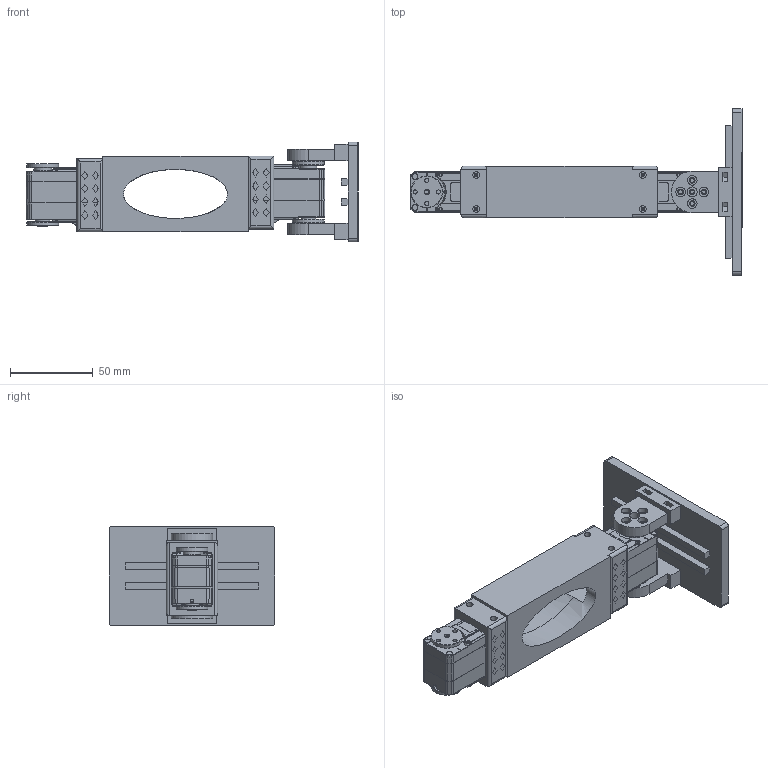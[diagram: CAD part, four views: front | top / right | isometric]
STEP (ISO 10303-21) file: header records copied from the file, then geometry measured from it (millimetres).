
FILE_DESCRIPTION(('Open CASCADE Model'),'2;1');
FILE_NAME('Open CASCADE Shape Model','2026-09-12T11:56:59',('Author'),( 'Open CASCADE'),'Open CASCADE STEP processor 7.9','Open CASCADE 7.9' ,'Unknown');
FILE_SCHEMA(('AUTOMOTIVE_DESIGN { 1 0 10303 214 1 1 1 1 }'));
Length unit declared in the file: millimetre
Products named in the file (22): ankle_V2_1_one_leg_print_prototype; printed_lower_leg; printed_sole; negative_axle_cheek; existing_knee_ST3215; ZK_122:1; SG-ZIJI_15:1; XG-ZIJI_16:1; MOTOR-1723_3:1; PCB-CHAZUO_92:1; GE_27:1; éå±èµçï¼é©±å¨ï¼ v2:1; éå±èµçï¼ä»å¨ï¼ v2:1; added_ankle_ST3215
Assembly tree (22 placements, depth 3):
  ankle_V2_1_one_leg_print_prototype
    printed_lower_leg
    printed_sole
    negative_axle_cheek  x2
    existing_knee_ST3215
      ZK_122:1
      SG-ZIJI_15:1
      XG-ZIJI_16:1
      MOTOR-1723_3:1
      PCB-CHAZUO_92:1
      GE_27:1
      éå±èµçï¼é©±å¨ï¼ v2:1
      éå±èµçï¼ä»å¨ï¼ v2:1
    added_ankle_ST3215
      ZK_122:1
      SG-ZIJI_15:1
      XG-ZIJI_16:1
      MOTOR-1723_3:1
      PCB-CHAZUO_92:1
      GE_27:1
      éå±èµçï¼é©±å¨ï¼ v2:1
      éå±èµçï¼ä»å¨ï¼ v2:1
Bounding box: 200.01 x 100 x 60 mm (x, y, z)
Volume: 225023.7 mm3; surface area: 91588.4 mm2
Topology: 20 solids, 40 shells, 2936 faces, 7998 edges, 5230 vertices
Faces by surface type: plane 1364, cylinder 1132, bspline 252, cone 96, torus 58, sphere 32, extrusion 2
Full cylindrical faces by diameter (mm): 1 x2, 1.2 x2, 1.5 x2, 1.6 x24, 2 x12, 2.2 x14, 2.5 x66, 2.6 x2, 3.2 x2, 3.4 x8, 3.5 x6, 4 x10, 4.7 x2, 5 x4, 5.8 x8, 6 x8, 6.05 x2, 6.1 x2, 6.2 x2, 6.5 x4, 8 x2, 8.92 x2, 10 x2, 10.5 x2, 10.6 x2, 13.8 x2, 17.05 x2, 19.2 x4
Entity records: 245938 total; most frequent: CARTESIAN_POINT 98084, DIRECTION 25114, ORIENTED_EDGE 15690, PCURVE 15690, DEFINITIONAL_REPRESENTATION 15690, VECTOR 13856, LINE 13854, EDGE_CURVE 7845
